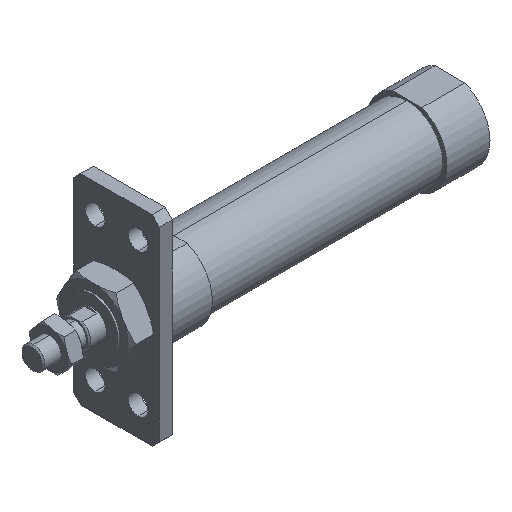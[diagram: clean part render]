
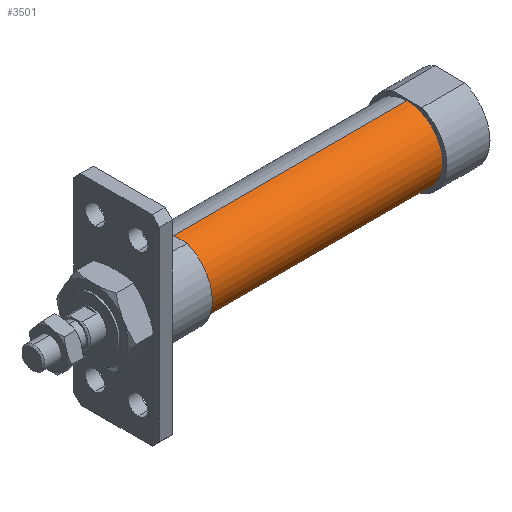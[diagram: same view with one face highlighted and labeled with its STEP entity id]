
A CAD part, isometric view. The second image highlights one B-rep face of the part: STEP entity #3501.
In plain terms, the highlighted cylindrical face has radius 12.5 mm (diameter 25 mm), a partial arc.
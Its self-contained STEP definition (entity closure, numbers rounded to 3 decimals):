
#28 = DIRECTION ( 'NONE',  ( -1., 0., 0. ) ) ;
#349 = CARTESIAN_POINT ( 'NONE',  ( 49., 0., -12.5 ) ) ;
#448 = CARTESIAN_POINT ( 'NONE',  ( -6.469, 0., 0. ) ) ;
#469 = FACE_OUTER_BOUND ( 'NONE', #2805, .T. ) ;
#620 = CARTESIAN_POINT ( 'NONE',  ( 49., 0., 0. ) ) ;
#664 = ORIENTED_EDGE ( 'NONE', *, *, #1831, .T. ) ;
#720 = EDGE_CURVE ( 'NONE', #1387, #1725, #1910, .T. ) ;
#900 = ORIENTED_EDGE ( 'NONE', *, *, #2441, .F. ) ;
#1001 = DIRECTION ( 'NONE',  ( -1., 0., 0. ) ) ;
#1036 = CARTESIAN_POINT ( 'NONE',  ( 131., 0., -12.5 ) ) ;
#1095 = CARTESIAN_POINT ( 'NONE',  ( 131., 0., 0. ) ) ;
#1277 = VECTOR ( 'NONE', #1491, 1000. ) ;
#1387 = VERTEX_POINT ( 'NONE', #349 ) ;
#1467 = AXIS2_PLACEMENT_3D ( 'NONE', #448, #3261, #1868 ) ;
#1491 = DIRECTION ( 'NONE',  ( -1., 0., 0. ) ) ;
#1516 = ORIENTED_EDGE ( 'NONE', *, *, #3540, .T. ) ;
#1520 = AXIS2_PLACEMENT_3D ( 'NONE', #620, #28, #2281 ) ;
#1547 = LINE ( 'NONE', #2061, #1277 ) ;
#1725 = VERTEX_POINT ( 'NONE', #2243 ) ;
#1774 = CIRCLE ( 'NONE', #3326, 12.5 ) ;
#1831 = EDGE_CURVE ( 'NONE', #2553, #3530, #1774, .T. ) ;
#1868 = DIRECTION ( 'NONE',  ( 0., 0., 1. ) ) ;
#1910 = CIRCLE ( 'NONE', #1520, 12.5 ) ;
#1977 = DIRECTION ( 'NONE',  ( 0., 0., 1. ) ) ;
#2061 = CARTESIAN_POINT ( 'NONE',  ( -6.469, 0., -12.5 ) ) ;
#2085 = CYLINDRICAL_SURFACE ( 'NONE', #1467, 12.5 ) ;
#2243 = CARTESIAN_POINT ( 'NONE',  ( 49., 0., 12.5 ) ) ;
#2281 = DIRECTION ( 'NONE',  ( 0., 0., 1. ) ) ;
#2433 = CARTESIAN_POINT ( 'NONE',  ( 131., 0., 12.5 ) ) ;
#2441 = EDGE_CURVE ( 'NONE', #2553, #1387, #1547, .T. ) ;
#2478 = LINE ( 'NONE', #3564, #3626 ) ;
#2553 = VERTEX_POINT ( 'NONE', #1036 ) ;
#2805 = EDGE_LOOP ( 'NONE', ( #900, #664, #1516, #3276 ) ) ;
#3261 = DIRECTION ( 'NONE',  ( -1., 0., 0. ) ) ;
#3276 = ORIENTED_EDGE ( 'NONE', *, *, #720, .F. ) ;
#3326 = AXIS2_PLACEMENT_3D ( 'NONE', #1095, #3419, #1977 ) ;
#3419 = DIRECTION ( 'NONE',  ( -1., 0., 0. ) ) ;
#3501 = ADVANCED_FACE ( 'NONE', ( #469 ), #2085, .T. ) ;
#3530 = VERTEX_POINT ( 'NONE', #2433 ) ;
#3540 = EDGE_CURVE ( 'NONE', #3530, #1725, #2478, .T. ) ;
#3564 = CARTESIAN_POINT ( 'NONE',  ( -6.469, 0., 12.5 ) ) ;
#3626 = VECTOR ( 'NONE', #1001, 1000. ) ;
